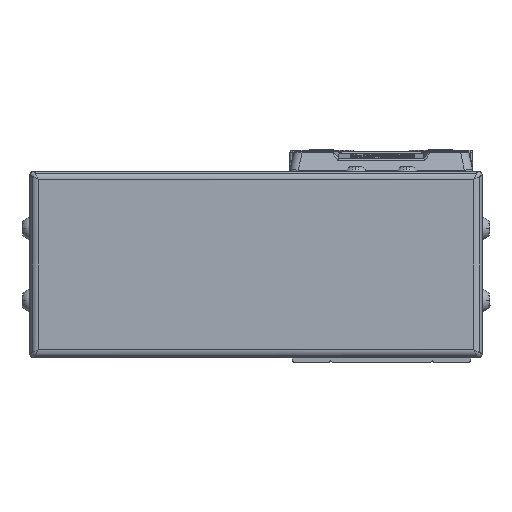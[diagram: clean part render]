
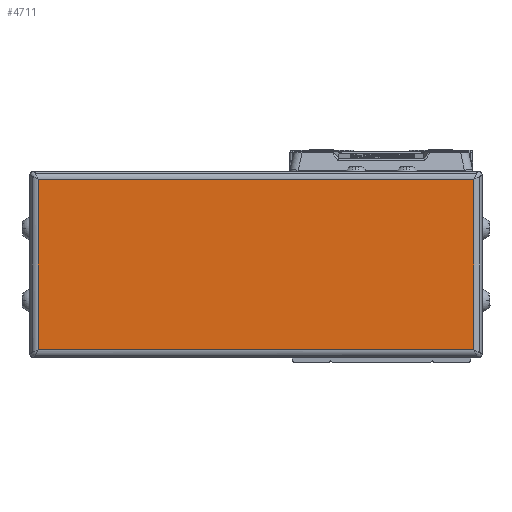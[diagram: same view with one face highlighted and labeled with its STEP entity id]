
A CAD part, left-side view. The second image highlights one B-rep face of the part: STEP entity #4711.
In plain terms, the highlighted planar face has unit normal (-1, 0, 0).
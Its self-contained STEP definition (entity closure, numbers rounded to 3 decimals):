
#4711=ADVANCED_FACE('',(#9743),#9744,.F.);
#9743=FACE_OUTER_BOUND('',#17794,.T.);
#9744=PLANE('',#17795);
#17794=EDGE_LOOP('',(#31608,#31609,#31610,#31611));
#17795=AXIS2_PLACEMENT_3D('',#31612,#31613,#31614);
#31608=ORIENTED_EDGE('',*,*,#35517,.T.);
#31609=ORIENTED_EDGE('',*,*,#39975,.T.);
#31610=ORIENTED_EDGE('',*,*,#36167,.T.);
#31611=ORIENTED_EDGE('',*,*,#39539,.T.);
#31612=CARTESIAN_POINT('',(-48.,29.5,-4.));
#31613=DIRECTION('',(1.0,0.,0.));
#31614=DIRECTION('',(0.,0.,1.0));
#35517=EDGE_CURVE('',#42386,#42384,#42387,.T.);
#36167=EDGE_CURVE('',#43477,#43475,#43478,.T.);
#39539=EDGE_CURVE('',#43475,#42386,#48325,.T.);
#39975=EDGE_CURVE('',#42384,#43477,#48807,.T.);
#42384=VERTEX_POINT('',#52032);
#42386=VERTEX_POINT('',#52034);
#42387=LINE('',#52035,#52036);
#43475=VERTEX_POINT('',#53549);
#43477=VERTEX_POINT('',#53551);
#43478=LINE('',#53552,#53553);
#48325=LINE('',#60928,#60929);
#48807=LINE('',#61582,#61583);
#52032=CARTESIAN_POINT('',(-48.,80.7,16.));
#52034=CARTESIAN_POINT('',(-48.,-21.7,16.));
#52035=CARTESIAN_POINT('',(-48.,29.5,16.));
#52036=VECTOR('',#63698,10.0);
#53549=CARTESIAN_POINT('',(-48.,-21.7,-24.));
#53551=CARTESIAN_POINT('',(-48.,80.7,-24.));
#53552=CARTESIAN_POINT('',(-48.,29.5,-24.));
#53553=VECTOR('',#64577,10.0);
#60928=CARTESIAN_POINT('',(-48.,-21.7,-4.));
#60929=VECTOR('',#68821,10.0);
#61582=CARTESIAN_POINT('',(-48.,80.7,-4.));
#61583=VECTOR('',#69222,10.0);
#63698=DIRECTION('',(0.,1.0,0.));
#64577=DIRECTION('',(0.,-1.0,0.));
#68821=DIRECTION('',(0.,0.,1.0));
#69222=DIRECTION('',(0.,0.,-1.0));
